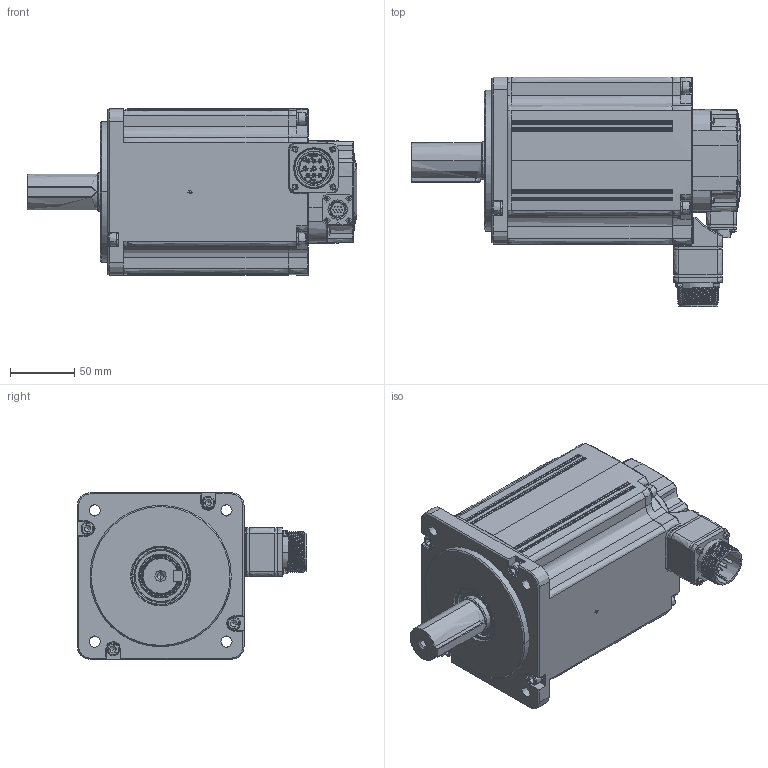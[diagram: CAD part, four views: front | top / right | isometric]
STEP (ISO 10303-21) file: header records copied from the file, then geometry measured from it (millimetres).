
FILE_DESCRIPTION(/* description */ (''),/* implementation_level */ '2;1');
FILE_NAME(/* name */ 'MJKUZQ~K',/* time_stamp */ '2022-09-15T15:23:55+01:00',/* author */ (''),/* organization */ (''),/* preprocessor_version */ 'ST-DEVELOPER v16.5',/* originating_system */ '',/* authorisation */ '');
FILE_SCHEMA (('AUTOMOTIVE_DESIGN'));
Products named in the file (3): Document; Block 02; Block 01
Assembly tree (2 placements, depth 2):
  Document
    Block 02
    Block 01
Bounding box: 257 x 178.9 x 130 mm (x, y, z)
Volume: 2647524.6 mm3; surface area: 236086.6 mm2
Topology: 64 solids, 71 shells, 4755 faces, 12633 edges, 8031 vertices
Faces by surface type: bspline 2949, plane 1806
Entity records: 219331 total; most frequent: CARTESIAN_POINT 144179, ORIENTED_EDGE 24884, EDGE_CURVE 12472, B_SPLINE_CURVE_WITH_KNOTS 8432, VERTEX_POINT 8031, EDGE_LOOP 5161, ADVANCED_FACE 4755, FACE_OUTER_BOUND 4755
